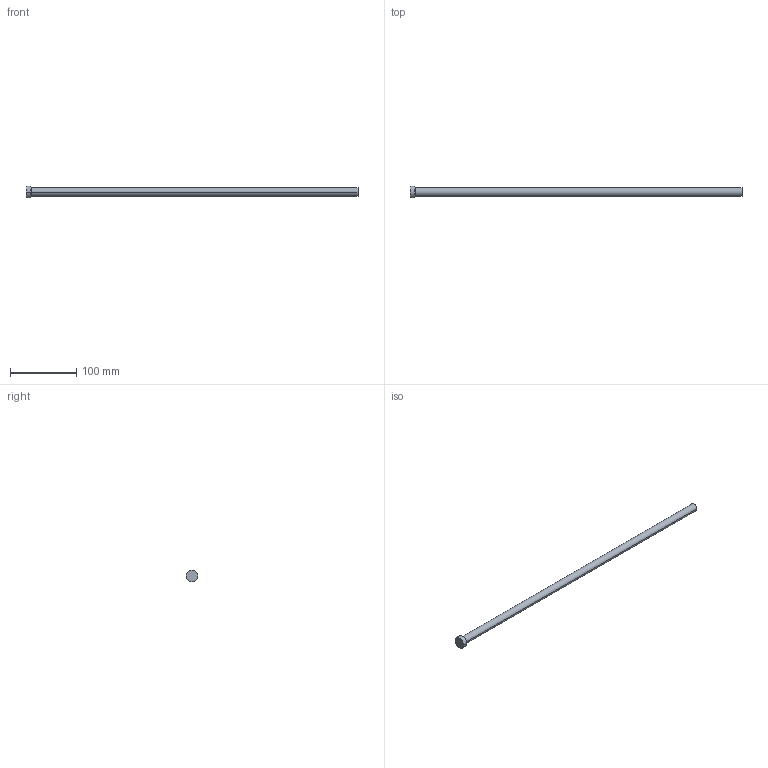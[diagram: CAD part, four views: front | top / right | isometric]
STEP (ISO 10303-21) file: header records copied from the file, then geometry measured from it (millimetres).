
FILE_DESCRIPTION (( 'STEP AP214' ), '1' );
FILE_NAME ('A-12,2x500.STEP', '2020-05-29T16:08:35', ( 'August' ), ( '' ), 'SwSTEP 2.0', 'SolidWorks 2018', '' );
FILE_SCHEMA (( 'AUTOMOTIVE_DESIGN' ));
Length unit declared in the file: millimetre
Products named in the file (1): A-12,2x500
Bounding box: 500 x 18 x 18 mm (x, y, z)
Volume: 59417.7 mm3; surface area: 19787.3 mm2
Topology: 1 solids, 1 shells, 9 faces, 16 edges, 10 vertices
Faces by surface type: cylinder 4, plane 3, torus 2
Entity records: 260 total; most frequent: DIRECTION 48, CARTESIAN_POINT 36, ORIENTED_EDGE 32, AXIS2_PLACEMENT_3D 22, EDGE_CURVE 16, CIRCLE 12, EDGE_LOOP 10, VERTEX_POINT 10
